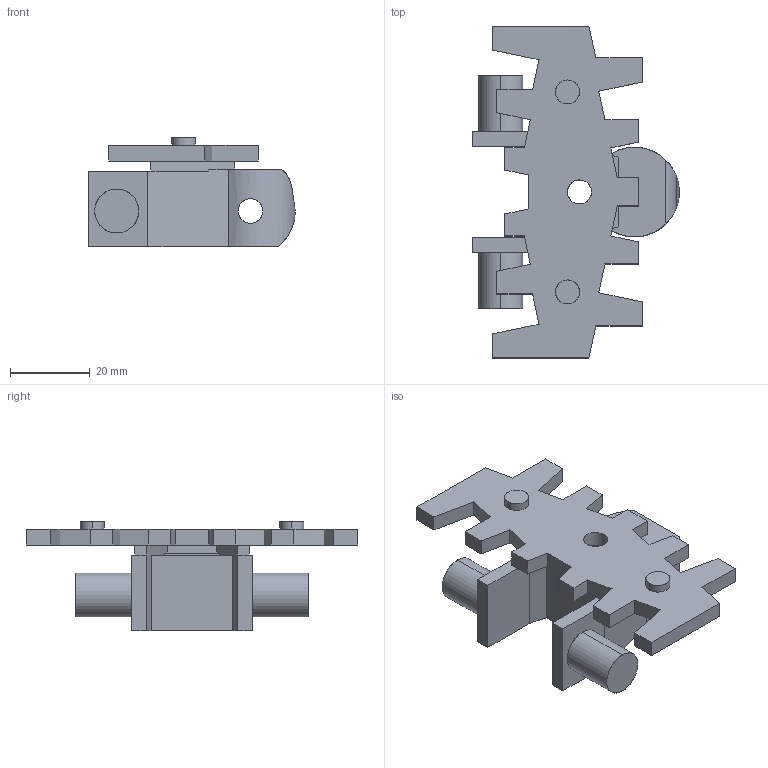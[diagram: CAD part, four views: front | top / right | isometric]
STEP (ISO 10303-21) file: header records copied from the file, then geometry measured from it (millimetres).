
FILE_DESCRIPTION (( 'STEP AP214' ), '1' );
FILE_NAME ('FMUC-5.STEP', '2011-09-28T08:39:07', ( '.' ), ( '' ), 'SwSTEP 2.0', 'SolidWorks 2010', '' );
FILE_SCHEMA (( 'AUTOMOTIVE_DESIGN' ));
Length unit declared in the file: millimetre
Products named in the file (1): FMUC-5
Bounding box: 51.65 x 83 x 27.5 mm (x, y, z)
Surface area: 12959.9 mm2 (no closed solid volume)
Topology: 0 solids, 91 shells, 97 faces, 525 edges, 513 vertices
Faces by surface type: plane 81, cylinder 16
Entity records: 7099 total; most frequent: CARTESIAN_POINT 3202, DIRECTION 698, ORIENTED_EDGE 537, EDGE_CURVE 525, VERTEX_POINT 513, VECTOR 454, LINE 454, AXIS2_PLACEMENT_3D 122
